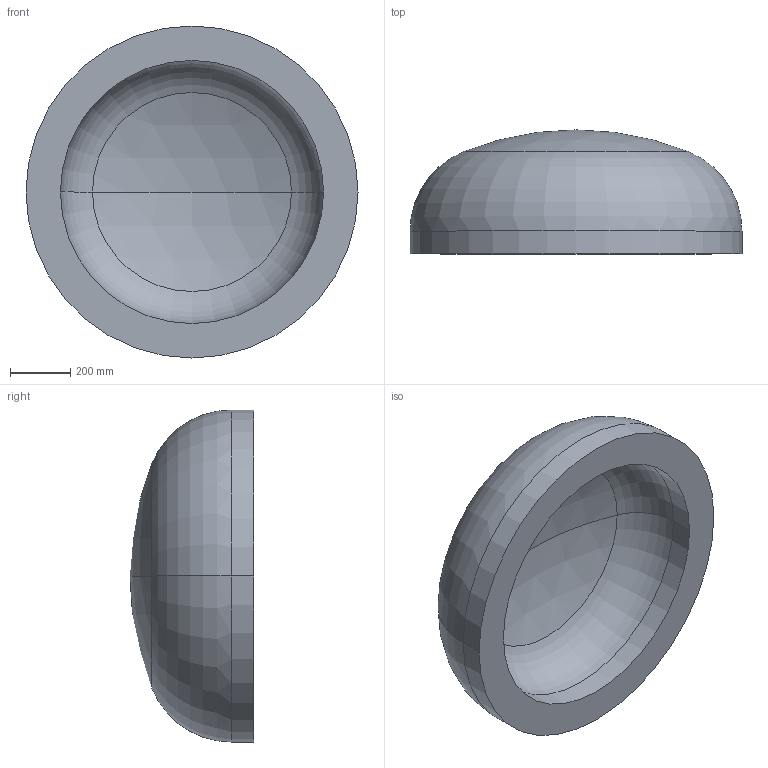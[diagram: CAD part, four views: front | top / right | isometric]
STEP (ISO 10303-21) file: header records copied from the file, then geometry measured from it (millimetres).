
FILE_DESCRIPTION (( 'STEP AP203' ), '1' );
FILE_NAME ('DIN 28013 Korbbogenform_-_Boden DIN 28013 - 1100 x 75 - I - s=114.step', '2016-07-01T09:17:50', ( '' ), ( '' ), 'SwSTEP 2.0', 'SolidWorks 2013', '' );
FILE_SCHEMA (( 'CONFIG_CONTROL_DESIGN' ));
Length unit declared in the file: millimetre
Products named in the file (1): DIN 28013 Korbbogenform_-_Boden DIN 28013 - 1100 x 75 - I - s=114
Bounding box: 1100 x 410.71 x 1100 mm (x, y, z)
Volume: 158613047.1 mm3; surface area: 3163030.9 mm2
Topology: 1 solids, 1 shells, 13 faces, 24 edges, 14 vertices
Faces by surface type: torus 4, cylinder 4, sphere 4, plane 1
Entity records: 407 total; most frequent: DIRECTION 72, CARTESIAN_POINT 52, ORIENTED_EDGE 48, AXIS2_PLACEMENT_3D 34, EDGE_CURVE 24, CIRCLE 20, VERTEX_POINT 14, EDGE_LOOP 14
